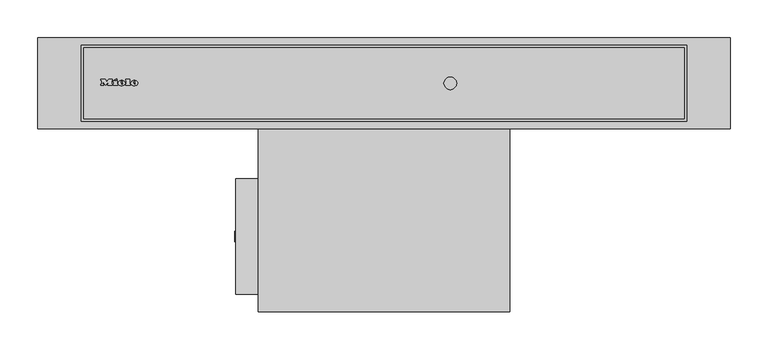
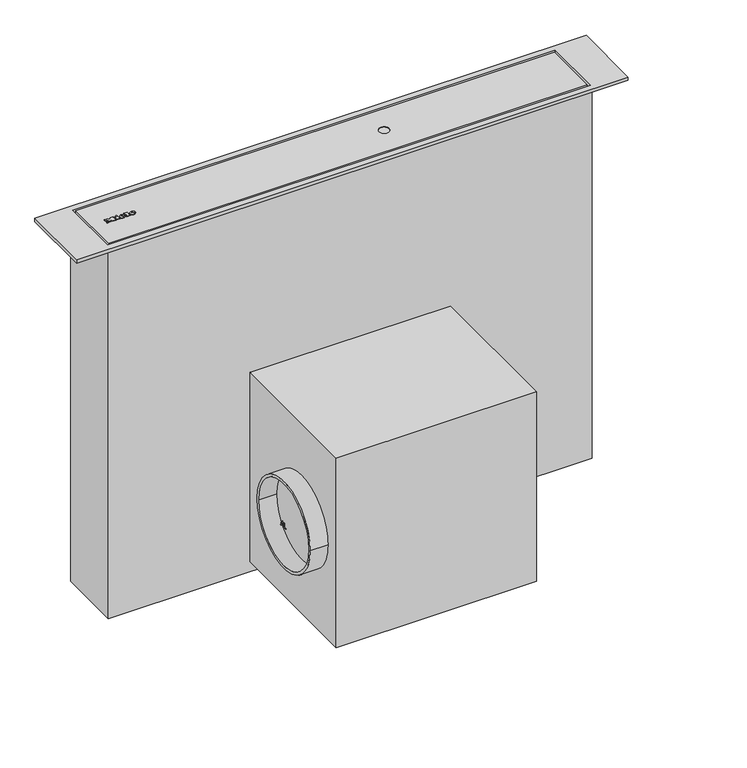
"""IFC4 building model written with IfcOpenShell, lengths in millimetres: proxy geometry, 10595910_USA_DA6891_EDST : 28689150_USA_10595910_DA6891_EDST."""

from ifc_helpers import new_model, si_unit, point, frame, frame_2d, origin, origin_with_axes, place, context, project, spatial, polyline, circle_curve, ellipse_curve, trimmed, segment, composite_curve, outline, extrude, source, transform, mapped, element, save
from ifc_brep_helpers import plane_surface, cylinder_surface, revolved_surface, extruded_surface, advanced_brep


def specialty_equipment_7af3c462(model_context):
    return source(origin(), model_context, "Body", "SolidModel", [
        extrude(outline(polyline([(-373.664, -55.9580008), (-373.664, -54.6540008), (-368.088, -54.6540008), (-365.744, -57.6540008), (-363.408, -54.6540008), (-358.536, -54.6540008), (-358.536, -55.9580008), (-359.552, -55.9580008), (-359.552, -61.3100008), (-358.536, -61.3100008), (-358.536, -62.6540008), (-364.92, -62.6540008), (-364.92, -61.3100008), (-363.936, -61.3100008), (-363.936, -57.8387785), (-367.528, -62.6540008), (-371.104, -57.906876), (-371.104, -61.3100008), (-370.144, -61.3100008), (-370.144, -62.6540008), (-373.664, -62.6540008), (-373.664, -61.3100008), (-372.696, -61.3100008), (-372.696, -55.9580008), (-373.664, -55.9580008)])), frame((0.0, 0.0, 651.8999939), z_axis=(0.0, 0.0, 1.0), x_axis=(1.0, 0.0, 0.0)), (0.0, 0.0, 1.0), 1.0),
        extrude(outline(polyline([(-341.2, -55.9580008), (-341.2, -54.6540008), (-335.696, -54.6540008), (-335.696, -61.3100008), (-334.712, -61.3100008), (-334.712, -62.6540008), (-341.2, -62.6540008), (-341.2, -61.3100008), (-340.24, -61.3100008), (-340.24, -55.9580008), (-341.2, -55.9580008)])), frame((0.0, 0.0, 651.8999939), z_axis=(0.0, 0.0, 1.0), x_axis=(1.0, 0.0, 0.0)), (0.0, 0.0, 1.0), 1.0),
        extrude(outline(polyline([(-355.744, -55.1260008), (-353.024, -53.8620008), (-352.424, -55.1580008), (-355.136, -56.4220008), (-355.744, -55.1260008)])), frame((0.0, 0.0, 651.8999939), z_axis=(0.0, 0.0, 1.0), x_axis=(1.0, 0.0, 0.0)), (0.0, 0.0, 1.0), 1.0),
        extrude(outline(polyline([(-357.72, -56.5980008), (-352.336, -56.5980008), (-352.336, -61.3100008), (-351.408, -61.3100008), (-351.408, -62.6540008), (-357.72, -62.6540008), (-357.72, -61.3100008), (-356.768, -61.3100008), (-356.768, -58.0300008), (-357.72, -58.0300008), (-357.72, -56.5980008)])), frame((0.0, 0.0, 651.8999939), z_axis=(0.0, 0.0, 1.0), x_axis=(1.0, 0.0, 0.0)), (0.0, 0.0, 1.0), 1.0),
        advanced_brep(
        [(-347.0, -60.7580008, 652.8999939), (-347.0, -59.9500008, 652.8999939), (-341.648, -59.9500008, 652.8999939), (-350.96, -59.9500008, 652.8999939), (-348.76, -62.6540008, 652.8999939), (-341.784, -60.7580008, 652.8999939), (-344.2, -60.7580008, 652.8999939), (-346.104, -61.6540008, 652.8999939), (-347.0, -58.9260008, 652.8999939), (-347.0, -58.0540008, 652.8999939), (-345.632, -58.0540008, 652.8999939), (-345.632, -58.9260008, 652.8999939), (-347.0, -60.7580008, 651.8999939), (-346.104, -61.6540008, 651.8999939), (-344.2, -60.7580008, 651.8999939), (-341.784, -60.7580008, 651.8999939), (-348.76, -62.6540008, 651.8999939), (-350.96, -59.9500008, 651.8999939), (-341.648, -59.9500008, 651.8999939), (-347.0, -59.9500008, 651.8999939), (-347.0, -58.9260008, 651.8999939), (-345.632, -58.9260008, 651.8999939), (-345.632, -58.0540008, 651.8999939), (-347.0, -58.0540008, 651.8999939)],
        [
            (0, 1),
            (1, 2),
            (2, 3, ellipse_curve(frame((-346.304, -59.9500008, 652.8999939), z_axis=(0.0, 0.0, 1.0), x_axis=(-1.0, 0.0, 0.0)), 4.656, 3.848)),
            (3, 4, circle_curve(frame((-347.8639564, -59.6780008, 652.8999939), z_axis=(0.0, 0.0, 1.0), x_axis=(0.0, -1.0, 0.0)), 3.1079688)),
            (4, 5, circle_curve(frame((-346.3972064, -57.5660008, 652.8999939), z_axis=(0.0, 0.0, 1.0), x_axis=(0.0, -1.0, 0.0)), 5.6098607)),
            (5, 6),
            (6, 7, circle_curve(frame((-345.7129412, -60.0140008, 652.8999939), z_axis=(0.0, 0.0, -1.0), x_axis=(0.0, -1.0, 0.0)), 1.6859795)),
            (7, 0, circle_curve(frame((-346.104, -60.7580008, 652.8999939), z_axis=(0.0, 0.0, -1.0), x_axis=(0.0, -1.0, 0.0)), 0.896)),
            (8, 9),
            (9, 10, circle_curve(frame((-346.316, -58.0540008, 652.8999939), z_axis=(0.0, 0.0, -1.0), x_axis=(0.0, -1.0, 0.0)), 0.684)),
            (10, 11),
            (11, 8),
            (12, 13, circle_curve(frame((-346.104, -60.7580008, 651.8999939), z_axis=(0.0, 0.0, 1.0), x_axis=(0.0, -1.0, 0.0)), 0.896)),
            (13, 14, circle_curve(frame((-345.7129412, -60.0140008, 651.8999939), z_axis=(0.0, 0.0, 1.0), x_axis=(0.0, -1.0, 0.0)), 1.6859795)),
            (14, 15),
            (15, 16, circle_curve(frame((-346.3972064, -57.5660008, 651.8999939), z_axis=(0.0, 0.0, -1.0), x_axis=(0.0, -1.0, 0.0)), 5.6098607)),
            (16, 17, circle_curve(frame((-347.8639564, -59.6780008, 651.8999939), z_axis=(0.0, 0.0, -1.0), x_axis=(0.0, -1.0, 0.0)), 3.1079688)),
            (17, 18, ellipse_curve(frame((-346.304, -59.9500008, 651.8999939), z_axis=(0.0, 0.0, -1.0), x_axis=(-1.0, 0.0, 0.0)), 4.656, 3.848)),
            (18, 19),
            (19, 12),
            (20, 21),
            (21, 22),
            (22, 23, circle_curve(frame((-346.316, -58.0540008, 651.8999939), z_axis=(0.0, 0.0, 1.0), x_axis=(0.0, -1.0, 0.0)), 0.684)),
            (23, 20),
            (0, 12),
            (19, 1),
            (18, 2),
            (5, 15),
            (14, 6),
            (17, 3),
            (13, 7),
            (16, 4),
            (8, 20),
            (23, 9),
            (22, 10),
            (21, 11),
        ],
        [
            plane_surface(frame((-347.0, -59.9500008, 652.8999939), z_axis=(0.0, 0.0, 1.0), x_axis=(0.0, 1.0, 0.0))),
            plane_surface(frame((-347.0, -59.9500008, 651.8999939), z_axis=(0.0, 0.0, -1.0), x_axis=(0.0, -1.0, 0.0))),
            plane_surface(frame((-347.0, -60.7580008, 652.8999939), z_axis=(1.0, 0.0, 0.0), x_axis=(0.0, 0.0, -1.0))),
            plane_surface(frame((-347.0, -59.9500008, 652.8999939), z_axis=(0.0, -1.0, 0.0), x_axis=(0.0, 0.0, -1.0))),
            plane_surface(frame((-341.784, -60.7580008, 652.8999939), z_axis=(0.0, 1.0, 0.0), x_axis=(0.0, 0.0, -1.0))),
            extruded_surface(trimmed(ellipse_curve(frame((-346.304, -59.9500008, 650.8999939), z_axis=(0.0, 0.0, 1.0), x_axis=(-1.0, 0.0, 0.0)), 4.656, 3.848), [point((-341.648, -59.9500008, 650.8999939))], [point((-350.96, -59.9500008, 650.8999939))], True, "CARTESIAN"), (0.0, 0.0, 1.0), 1.0),
            revolved_surface(polyline([(-345.7129412, -61.6999803, 651.8999939), (-345.7129412, -61.6999803, 652.8999939)]), (-345.7129412, -60.0140008, 651.8999939), (0.0, 0.0, -1.0)),
            revolved_surface(polyline([(-346.104, -61.6540008, 651.8999939), (-346.104, -61.6540008, 652.8999939)]), (-346.104, -60.7580008, 651.8999939), (0.0, 0.0, -1.0)),
            cylinder_surface(frame((-347.8639564, -59.6780008, 651.8999939), z_axis=(0.0, 0.0, 1.0), x_axis=(0.0, -1.0, 0.0)), 3.1079688),
            cylinder_surface(frame((-346.3972064, -57.5660008, 651.8999939), z_axis=(0.0, 0.0, 1.0), x_axis=(0.0, -1.0, 0.0)), 5.6098607),
            plane_surface(frame((-347.0, -58.9260008, 652.8999939), z_axis=(1.0, 0.0, 0.0), x_axis=(0.0, 0.0, -1.0))),
            revolved_surface(polyline([(-346.316, -58.738000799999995, 651.8999939), (-346.316, -58.738000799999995, 652.8999939)]), (-346.316, -58.0540008, 651.8999939), (0.0, 0.0, -1.0)),
            plane_surface(frame((-345.632, -58.0540008, 652.8999939), z_axis=(-1.0, 0.0, 0.0), x_axis=(0.0, 0.0, -1.0))),
            plane_surface(frame((-345.632, -58.9260008, 652.8999939), z_axis=(0.0, 1.0, 0.0), x_axis=(0.0, 0.0, -1.0))),
        ],
        [
            (0, [[1, 2, 3, 4, 5, 6, 7, 8], [9, 10, 11, 12]]),
            (1, [[13, 14, 15, 16, 17, 18, 19, 20], [21, 22, 23, 24]]),
            (2, [[-1, 25, -20, 26]]),
            (3, [[-2, -26, -19, 27]]),
            (4, [[-6, 28, -15, 29]]),
            (5, [[-3, -27, -18, 30]]),
            (6, [[-7, -29, -14, 31]]),
            (7, [[-8, -31, -13, -25]]),
            (8, [[-4, -30, -17, 32]]),
            (9, [[-5, -32, -16, -28]]),
            (10, [[-9, 33, -24, 34]]),
            (11, [[-10, -34, -23, 35]]),
            (12, [[-11, -35, -22, 36]]),
            (13, [[-12, -36, -21, -33]]),
        ],
    ),
        advanced_brep(
        [(-330.304, -60.7580008, 652.8999939), (-330.304, -59.9500008, 652.8999939), (-324.952, -59.9500008, 652.8999939), (-334.264, -59.9500008, 652.8999939), (-332.064, -62.6540008, 652.8999939), (-325.088, -60.7580008, 652.8999939), (-327.504, -60.7580008, 652.8999939), (-329.408, -61.6540008, 652.8999939), (-330.304, -58.9260008, 652.8999939), (-330.304, -58.0540008, 652.8999939), (-328.936, -58.0540008, 652.8999939), (-328.936, -58.9260008, 652.8999939), (-330.304, -60.7580008, 651.8999939), (-329.408, -61.6540008, 651.8999939), (-327.504, -60.7580008, 651.8999939), (-325.088, -60.7580008, 651.8999939), (-332.064, -62.6540008, 651.8999939), (-334.264, -59.9500008, 651.8999939), (-324.952, -59.9500008, 651.8999939), (-330.304, -59.9500008, 651.8999939), (-330.304, -58.9260008, 651.8999939), (-328.936, -58.9260008, 651.8999939), (-328.936, -58.0540008, 651.8999939), (-330.304, -58.0540008, 651.8999939)],
        [
            (0, 1),
            (1, 2),
            (2, 3, ellipse_curve(frame((-329.608, -59.9500008, 652.8999939), z_axis=(0.0, 0.0, 1.0), x_axis=(-1.0, 0.0, 0.0)), 4.656, 3.848)),
            (3, 4, circle_curve(frame((-331.1679564, -59.6780008, 652.8999939), z_axis=(0.0, 0.0, 1.0), x_axis=(0.0, -1.0, 0.0)), 3.1079688)),
            (4, 5, circle_curve(frame((-329.7012064, -57.5660008, 652.8999939), z_axis=(0.0, 0.0, 1.0), x_axis=(0.0, -1.0, 0.0)), 5.6098607)),
            (5, 6),
            (6, 7, circle_curve(frame((-329.0169412, -60.0140008, 652.8999939), z_axis=(0.0, 0.0, -1.0), x_axis=(0.0, -1.0, 0.0)), 1.6859795)),
            (7, 0, circle_curve(frame((-329.408, -60.7580008, 652.8999939), z_axis=(0.0, 0.0, -1.0), x_axis=(0.0, -1.0, 0.0)), 0.896)),
            (8, 9),
            (9, 10, circle_curve(frame((-329.62, -58.0540008, 652.8999939), z_axis=(0.0, 0.0, -1.0), x_axis=(0.0, -1.0, 0.0)), 0.684)),
            (10, 11),
            (11, 8),
            (12, 13, circle_curve(frame((-329.408, -60.7580008, 651.8999939), z_axis=(0.0, 0.0, 1.0), x_axis=(0.0, -1.0, 0.0)), 0.896)),
            (13, 14, circle_curve(frame((-329.0169412, -60.0140008, 651.8999939), z_axis=(0.0, 0.0, 1.0), x_axis=(0.0, -1.0, 0.0)), 1.6859795)),
            (14, 15),
            (15, 16, circle_curve(frame((-329.7012064, -57.5660008, 651.8999939), z_axis=(0.0, 0.0, -1.0), x_axis=(0.0, -1.0, 0.0)), 5.6098607)),
            (16, 17, circle_curve(frame((-331.1679564, -59.6780008, 651.8999939), z_axis=(0.0, 0.0, -1.0), x_axis=(0.0, -1.0, 0.0)), 3.1079688)),
            (17, 18, ellipse_curve(frame((-329.608, -59.9500008, 651.8999939), z_axis=(0.0, 0.0, -1.0), x_axis=(-1.0, 0.0, 0.0)), 4.656, 3.848)),
            (18, 19),
            (19, 12),
            (20, 21),
            (21, 22),
            (22, 23, circle_curve(frame((-329.62, -58.0540008, 651.8999939), z_axis=(0.0, 0.0, 1.0), x_axis=(0.0, -1.0, 0.0)), 0.684)),
            (23, 20),
            (0, 12),
            (19, 1),
            (18, 2),
            (5, 15),
            (14, 6),
            (17, 3),
            (13, 7),
            (16, 4),
            (8, 20),
            (23, 9),
            (22, 10),
            (21, 11),
        ],
        [
            plane_surface(frame((-330.304, -59.9500008, 652.8999939), z_axis=(0.0, 0.0, 1.0), x_axis=(0.0, 1.0, 0.0))),
            plane_surface(frame((-330.304, -59.9500008, 651.8999939), z_axis=(0.0, 0.0, -1.0), x_axis=(0.0, -1.0, 0.0))),
            plane_surface(frame((-330.304, -60.7580008, 652.8999939), z_axis=(1.0, 0.0, 0.0), x_axis=(0.0, 0.0, -1.0))),
            plane_surface(frame((-330.304, -59.9500008, 652.8999939), z_axis=(0.0, -1.0, 0.0), x_axis=(0.0, 0.0, -1.0))),
            plane_surface(frame((-325.088, -60.7580008, 652.8999939), z_axis=(0.0, 1.0, 0.0), x_axis=(0.0, 0.0, -1.0))),
            extruded_surface(trimmed(ellipse_curve(frame((-329.608, -59.9500008, 650.8999939), z_axis=(0.0, 0.0, 1.0), x_axis=(-1.0, 0.0, 0.0)), 4.656, 3.848), [point((-324.952, -59.9500008, 650.8999939))], [point((-334.264, -59.9500008, 650.8999939))], True, "CARTESIAN"), (0.0, 0.0, 1.0), 1.0),
            revolved_surface(polyline([(-329.0169412, -61.6999803, 651.8999939), (-329.0169412, -61.6999803, 652.8999939)]), (-329.0169412, -60.0140008, 651.8999939), (0.0, 0.0, -1.0)),
            revolved_surface(polyline([(-329.408, -61.6540008, 651.8999939), (-329.408, -61.6540008, 652.8999939)]), (-329.408, -60.7580008, 651.8999939), (0.0, 0.0, -1.0)),
            cylinder_surface(frame((-331.1679564, -59.6780008, 651.8999939), z_axis=(0.0, 0.0, 1.0), x_axis=(0.0, -1.0, 0.0)), 3.1079688),
            cylinder_surface(frame((-329.7012064, -57.5660008, 651.8999939), z_axis=(0.0, 0.0, 1.0), x_axis=(0.0, -1.0, 0.0)), 5.6098607),
            plane_surface(frame((-330.304, -58.9260008, 652.8999939), z_axis=(1.0, 0.0, 0.0), x_axis=(0.0, 0.0, -1.0))),
            revolved_surface(polyline([(-329.62, -58.738000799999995, 651.8999939), (-329.62, -58.738000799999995, 652.8999939)]), (-329.62, -58.0540008, 651.8999939), (0.0, 0.0, -1.0)),
            plane_surface(frame((-328.936, -58.0540008, 652.8999939), z_axis=(-1.0, 0.0, 0.0), x_axis=(0.0, 0.0, -1.0))),
            plane_surface(frame((-328.936, -58.9260008, 652.8999939), z_axis=(0.0, 1.0, 0.0), x_axis=(0.0, 0.0, -1.0))),
        ],
        [
            (0, [[1, 2, 3, 4, 5, 6, 7, 8], [9, 10, 11, 12]]),
            (1, [[13, 14, 15, 16, 17, 18, 19, 20], [21, 22, 23, 24]]),
            (2, [[-1, 25, -20, 26]]),
            (3, [[-2, -26, -19, 27]]),
            (4, [[-6, 28, -15, 29]]),
            (5, [[-3, -27, -18, 30]]),
            (6, [[-7, -29, -14, 31]]),
            (7, [[-8, -31, -13, -25]]),
            (8, [[-4, -30, -17, 32]]),
            (9, [[-5, -32, -16, -28]]),
            (10, [[-9, 33, -24, 34]]),
            (11, [[-10, -34, -23, 35]]),
            (12, [[-11, -35, -22, 36]]),
            (13, [[-12, -36, -21, -33]]),
        ],
    ),
        extrude(outline(polyline([(166.0, -361.4), (-166.0, -361.4), (-166.0, -114.0), (166.0, -114.0), (166.0, -361.4)])), frame((0.0, 0.0, 16.8999939), z_axis=(0.0, 0.0, 1.0), x_axis=(1.0, 0.0, 0.0)), (0.0, 0.0, 1.0), 332.0),
        extrude(outline(composite_curve([segment(trimmed(circle_curve(frame_2d((-262.3999977, 182.8999939)), 76.2003937), [point((-338.6003914, 182.8999939))], [point((-186.199604, 182.8999939))], False, "CARTESIAN"), True, "CONTINUOUS"), segment(trimmed(circle_curve(frame_2d((-262.3999977, 182.8999939)), 76.2003937), [point((-186.199604, 182.8999939))], [point((-338.6003914, 182.8999939))], False, "CARTESIAN"), True, "CONTINUOUS")], self_intersect=False), holes=[composite_curve([segment(trimmed(circle_curve(frame_2d((-262.3999977, 182.8999939)), 71.2624664), [point((-333.6624641, 182.8999939))], [point((-191.1375313, 182.8999939))], True, "CARTESIAN"), True, "CONTINUOUS"), segment(trimmed(circle_curve(frame_2d((-262.3999977, 182.8999939)), 71.2624664), [point((-191.1375313, 182.8999939))], [point((-333.6624641, 182.8999939))], True, "CARTESIAN"), True, "CONTINUOUS")], self_intersect=False)]), frame((-196.0, 0.0, 0.0), z_axis=(1.0, 0.0, 0.0), x_axis=(0.0, 1.0, 0.0)), (0.0, 0.0, 1.0), 30.0),
        extrude(outline(polyline([(401.0, -114.0), (-401.0, -114.0), (-401.0, -5.7999992), (401.0, -5.7999992), (401.0, -114.0)])), origin_with_axes(), (0.0, 0.0, 1.0), 645.8999939),
        extrude(outline(polyline([(457.0, 0.0), (457.0, -120.0), (-457.0, -120.0), (-457.0, 0.0), (457.0, 0.0)]), holes=[polyline([(-399.9500122, -110.3), (399.9500122, -110.3), (399.9500122, -9.7000008), (-399.9500122, -9.7000008), (-399.9500122, -110.3)])]), frame((0.0, 0.0, 645.8999939), z_axis=(0.0, 0.0, 1.0), x_axis=(1.0, 0.0, 0.0)), (0.0, 0.0, 1.0), 6.0),
        advanced_brep(
        [(396.6499939, -12.9500008, 645.8999939), (396.6499939, -106.9500008, 645.8999939), (-396.6499939, -106.9500008, 645.8999939), (-396.6499939, -12.9500008, 645.8999939), (396.6499939, -12.9500008, 651.8999939), (-396.6499939, -12.9500008, 651.8999939), (-396.6499939, -106.9500008, 651.8999939), (396.6499939, -106.9500008, 651.8999939), (95.8030959, -59.9500008, 651.8999939), (79.1969041, -59.9500008, 651.8999939), (79.1969041, -59.9500008, 650.8999939), (95.8030959, -59.9500008, 650.8999939)],
        [
            (0, 1),
            (1, 2),
            (2, 3),
            (3, 0),
            (4, 5),
            (5, 6),
            (6, 7),
            (7, 4),
            (8, 9, circle_curve(frame((87.5, -59.9500008, 651.8999939), z_axis=(0.0, 0.0, -1.0), x_axis=(1.0, 0.0, 0.0)), 8.3030959)),
            (9, 8, circle_curve(frame((87.5, -59.9500008, 651.8999939), z_axis=(0.0, 0.0, -1.0), x_axis=(1.0, 0.0, 0.0)), 8.3030959)),
            (3, 5),
            (4, 0),
            (2, 6),
            (1, 7),
            (10, 11, circle_curve(frame((87.5, -59.9500008, 650.8999939), z_axis=(0.0, 0.0, 1.0), x_axis=(1.0, 0.0, 0.0)), 8.3030959)),
            (11, 10, circle_curve(frame((87.5, -59.9500008, 650.8999939), z_axis=(0.0, 0.0, 1.0), x_axis=(1.0, 0.0, 0.0)), 8.3030959)),
            (10, 9),
            (8, 11),
        ],
        [
            plane_surface(frame((-396.6499939, -12.9500008, 645.8999939), z_axis=(0.0, 0.0, -1.0), x_axis=(1.0, 0.0, 0.0))),
            plane_surface(frame((-396.6499939, -12.9500008, 651.8999939), z_axis=(0.0, 0.0, 1.0), x_axis=(-1.0, 0.0, 0.0))),
            plane_surface(frame((396.6499939, -12.9500008, 651.8999939), z_axis=(0.0, 1.0, 0.0), x_axis=(0.0, 0.0, -1.0))),
            plane_surface(frame((-396.6499939, -12.9500008, 651.8999939), z_axis=(-1.0, 0.0, 0.0), x_axis=(0.0, 0.0, -1.0))),
            plane_surface(frame((-396.6499939, -106.9500008, 651.8999939), z_axis=(0.0, -1.0, 0.0), x_axis=(0.0, 0.0, -1.0))),
            plane_surface(frame((396.6499939, -106.9500008, 651.8999939), z_axis=(1.0, 0.0, 0.0), x_axis=(0.0, 0.0, -1.0))),
            plane_surface(frame((95.8030959, -59.9500008, 650.8999939), z_axis=(0.0, 0.0, 1.0), x_axis=(0.0, -1.0, 0.0))),
            revolved_surface(polyline([(95.8030959, -59.9500008, 651.8999939), (95.8030959, -59.9500008, 650.8999939)]), (87.5, -59.9500008, 650.8999939), (0.0, 0.0, 1.0)),
        ],
        [
            (0, [[1, 2, 3, 4]]),
            (1, [[5, 6, 7, 8], [9, 10]]),
            (2, [[-4, 11, -5, 12]]),
            (3, [[-3, 13, -6, -11]]),
            (4, [[-2, 14, -7, -13]]),
            (5, [[-1, -12, -8, -14]]),
            (6, [[15, 16]]),
            (7, [[-15, 17, -9, 18]]),
            (7, [[-16, -18, -10, -17]]),
        ],
    ),
        extrude(outline(polyline([(-255.5642597, 178.8999939), (-256.6237599, 178.8999939), (-257.5419933, 181.4114017), (-260.8539123, 181.4114017), (-261.7721458, 178.8999939), (-262.833608, 178.8999939), (-259.627639, 186.9364987), (-258.7721907, 186.9364987), (-255.5642597, 178.8999939)]), holes=[polyline([(-257.9108564, 182.4159648), (-258.6976333, 184.5643956), (-259.1979528, 185.9319356), (-259.7610575, 184.3917363), (-260.4870113, 182.4159648), (-257.9108564, 182.4159648)])]), frame((-197.0, 0.0, 0.0), z_axis=(1.0, 0.0, 0.0), x_axis=(0.0, 1.0, 0.0)), (0.0, 0.0, 1.0), 1.0),
        extrude(outline(polyline([(-263.9068424, 178.8999939), (-268.9296579, 178.8999939), (-268.9296579, 179.904557), (-264.9114055, 179.904557), (-264.9114055, 186.9364987), (-263.9068424, 186.9364987), (-263.9068424, 178.8999939)])), frame((-197.0, 0.0, 0.0), z_axis=(1.0, 0.0, 0.0), x_axis=(0.0, 1.0, 0.0)), (0.0, 0.0, 1.0), 1.0),
        extrude(outline(composite_curve([segment(trimmed(circle_curve(frame_2d((265.0, -93.6000013)), 8.0), [point((257.0, -93.6000013))], [point((273.0, -93.6000013))], False, "CARTESIAN"), True, "CONTINUOUS"), segment(trimmed(circle_curve(frame_2d((265.0, -93.6000013)), 8.0), [point((273.0, -93.6000013))], [point((257.0, -93.6000013))], False, "CARTESIAN"), True, "CONTINUOUS")], self_intersect=False)), frame((0.0, 0.0, -30.0), z_axis=(0.0, 0.0, 1.0), x_axis=(1.0, 0.0, 0.0)), (0.0, 0.0, 1.0), 30.0),
        extrude(outline(polyline([(259.0981918, -89.6000013), (265.0, -89.6000013), (265.0, -90.6045644), (260.1027549, -90.6045644), (260.1027549, -93.2415426), (264.6232888, -93.2415426), (264.6232888, -94.2461057), (260.1027549, -94.2461057), (260.1027549, -96.631943), (264.8744296, -96.631943), (264.8744296, -97.6365061), (259.0981918, -97.6365061), (259.0981918, -89.6000013)])), frame((0.0, 0.0, -31.0), z_axis=(0.0, 0.0, 1.0), x_axis=(1.0, 0.0, 0.0)), (0.0, 0.0, 1.0), 1.0),
        extrude(outline(polyline([(266.5068447, -89.6000013), (271.5296602, -89.6000013), (271.5296602, -90.6045644), (267.5114078, -90.6045644), (267.5114078, -97.6365061), (266.5068447, -97.6365061), (266.5068447, -89.6000013)])), frame((0.0, 0.0, -31.0), z_axis=(0.0, 0.0, 1.0), x_axis=(1.0, 0.0, 0.0)), (0.0, 0.0, 1.0), 1.0),
    ])


if __name__ == "__main__":
    model = new_model("IFC4")
    model_context = context("Model", 3, world=origin())
    ifc_project = project(units=[si_unit("LENGTHUNIT", "METRE", prefix="MILLI")], contexts=[model_context])
    site = spatial("IfcSite", under=ifc_project)
    building = spatial("IfcBuilding", under=site)
    placement = place(None, origin())
    specialty_equipment_shape = specialty_equipment_7af3c462(model_context)
    element("IfcBuildingElementProxy", 1, Name="10595910_USA_DA6891_EDST : 28689150_USA_10595910_DA6891_EDST", ObjectType="10595910_USA_DA6891_EDST : 28689150_USA_10595910_DA6891_EDST", at=placement, inside=building, context=model_context, shape_type="MappedRepresentation", body=[
        mapped(specialty_equipment_shape, transform((0.0, 0.0, 0.0), x_axis=(1.0, 0.0, 0.0), y_axis=(0.0, 1.0, 0.0), z_axis=(0.0, 0.0, 1.0))),
    ])
    save(model, "model.ifc")
